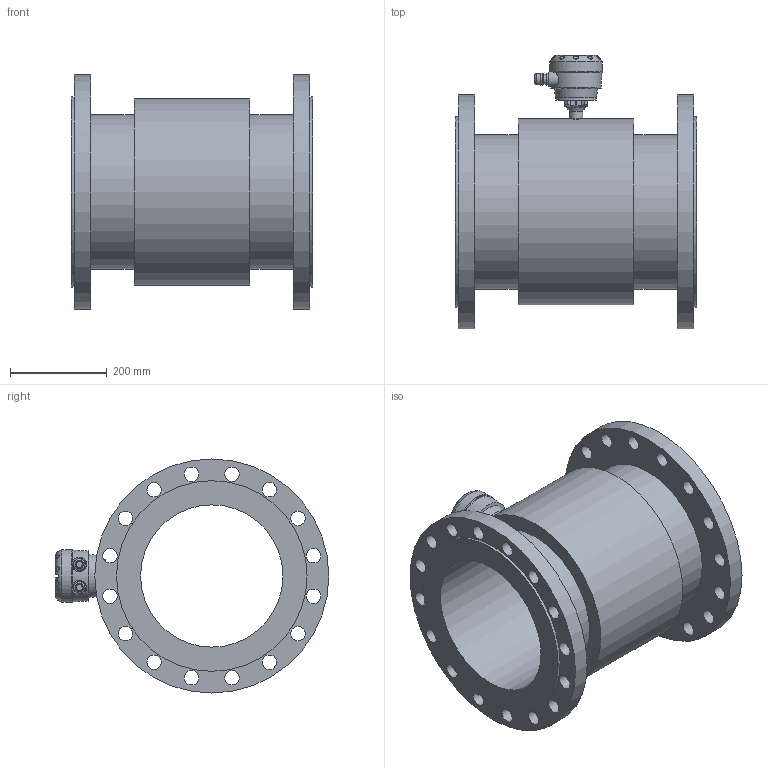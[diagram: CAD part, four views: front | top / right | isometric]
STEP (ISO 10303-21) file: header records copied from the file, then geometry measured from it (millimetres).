
FILE_DESCRIPTION (( 'STEP AP203' ), '1' );
FILE_NAME ('KROHNE_OPTIFLUX_2-4000W_DIN2634_DN300_PN25.STEP', '2011-04-26T11:25:14', ( '' ), ( '' ), 'SwSTEP 2.0', 'SolidWorks 2010', '' );
FILE_SCHEMA (( 'CONFIG_CONTROL_DESIGN' ));
Length unit declared in the file: millimetre
Products named in the file (1): KROHNE_OPTIFLUX_2-4000W_DIN2634_DN300_PN25
Bounding box: 500 x 566.99 x 485 mm (x, y, z)
Volume: 22453331.9 mm3; surface area: 1728971.1 mm2
Topology: 14 solids, 14 shells, 359 faces, 901 edges, 592 vertices
Faces by surface type: plane 158, cylinder 109, bspline 53, torus 18, sphere 13, cone 8
Full cylindrical faces by diameter (mm): 4 x4, 6.6 x8, 13 x2, 20 x2, 23.5 x4, 29 x1, 30 x34, 84 x2, 109 x1, 295 x1, 320 x2, 386 x1, 395 x2, 485 x2
Entity records: 14536 total; most frequent: CARTESIAN_POINT 6579, ORIENTED_EDGE 1526, DIRECTION 1509, EDGE_CURVE 763, AXIS2_PLACEMENT_3D 573, EDGE_LOOP 566, VERTEX_POINT 547, FACE_OUTER_BOUND 442
